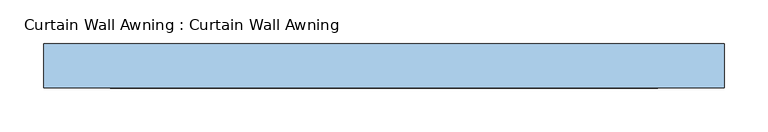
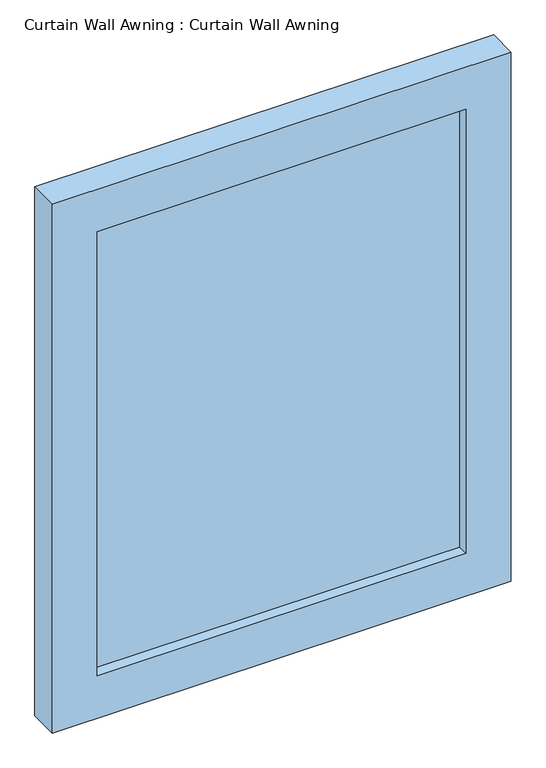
"""IFC4 building model written with IfcOpenShell, lengths in millimetres: window geometry, Curtain Wall Awning : Curtain Wall Awning."""

from ifc_helpers import new_model, si_unit, frame, origin, place, context, project, spatial, polyline, outline, extrude, source, transform, mapped, element, save


def curtain_wall_awning_curtain_wall_awning_5f5da433(model_context):
    return source(origin(), model_context, "Body", "SweptSolid", [
        extrude(outline(polyline([(313.8, 44.45), (-313.8, 44.45), (-313.8, 57.15), (313.8, 57.15), (313.8, 44.45)])), frame((0.0, 0.0, 76.2), z_axis=(0.0, 0.0, 1.0), x_axis=(1.0, 0.0, 0.0)), (0.0, 0.0, 1.0), 797.6),
        extrude(outline(polyline([(950.0, -390.0), (0.0, -390.0), (0.0, 390.0), (950.0, 390.0), (950.0, -390.0)]), holes=[polyline([(873.8, -313.8), (873.8, 313.8), (76.2, 313.8), (76.2, -313.8), (873.8, -313.8)])]), frame((0.0, 25.4, 0.0), z_axis=(0.0, 1.0, 0.0), x_axis=(0.0, 0.0, 1.0)), (0.0, 0.0, 1.0), 50.8),
    ])


if __name__ == "__main__":
    model = new_model("IFC4")
    model_context = context("Model", 3, world=origin())
    ifc_project = project(units=[si_unit("LENGTHUNIT", "METRE", prefix="MILLI")], contexts=[model_context])
    site = spatial("IfcSite", under=ifc_project)
    building = spatial("IfcBuilding", under=site)
    placement = place(None, origin())
    curtain_wall_awning_curtain_wall_awning_shape = curtain_wall_awning_curtain_wall_awning_5f5da433(model_context)
    element("IfcWindow", 1, ObjectType="Curtain Wall Awning : Curtain Wall Awning", at=placement, inside=building, context=model_context, shape_type="MappedRepresentation", body=[
        mapped(curtain_wall_awning_curtain_wall_awning_shape, transform((0.0, 0.0, 0.0), x_axis=(1.0, 0.0, 0.0), y_axis=(0.0, 1.0, 0.0), z_axis=(0.0, 0.0, 1.0))),
    ])
    save(model, "model.ifc")
